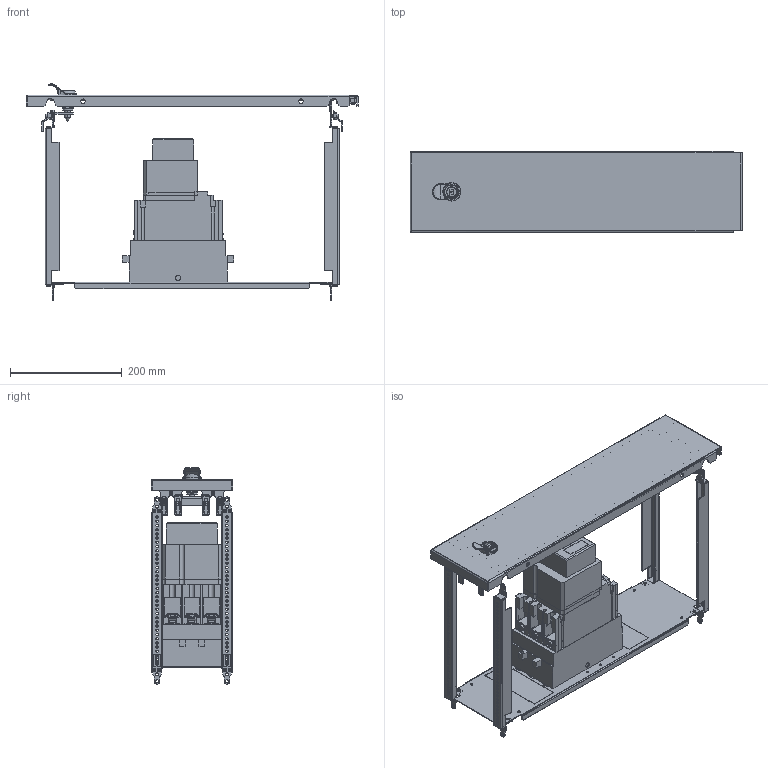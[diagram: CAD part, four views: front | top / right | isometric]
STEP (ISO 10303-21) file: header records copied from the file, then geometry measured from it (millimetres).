
FILE_DESCRIPTION(('CAx-IF Rec.Pracs.---Model Styling and Organization---1.2---2011-12-15','CAx-IF Rec.Pracs.---Geometric and Assembly Validation Properties---4.1---2014-06-16','CAx-IF Rec.Pracs.---PMI Polyline Presentation---2.0---2013-05-24'),'2;1');
FILE_NAME('R5PKEB7H62213 (P-MO).stp','2021-07-29T02:15:01+03:00',(''),(''),'STEP Interface 4.4 by CT CoreTechnologie','3D_Evolution4.4 by CT CoreTechnologie','');
FILE_SCHEMA(('AUTOMOTIVE_DESIGN { 1 0 10303 214 1 1 1 1 }'));
Length unit declared in the file: millimetre
Products named in the file (1): R5PKEB7H62213 (P-MO)
Bounding box: 594 x 145 x 386.9 mm (x, y, z)
Surface area: 906616.8 mm2 (no closed solid volume)
Topology: 0 solids, 78 shells, 2935 faces, 8113 edges, 5334 vertices
Faces by surface type: plane 1528, cylinder 1050, bspline 357
Entity records: 103770 total; most frequent: CARTESIAN_POINT 27551, ORIENTED_EDGE 16154, DIRECTION 15426, EDGE_CURVE 8080, VECTOR 5400, LINE 5400, VERTEX_POINT 5352, AXIS2_PLACEMENT_3D 5013
